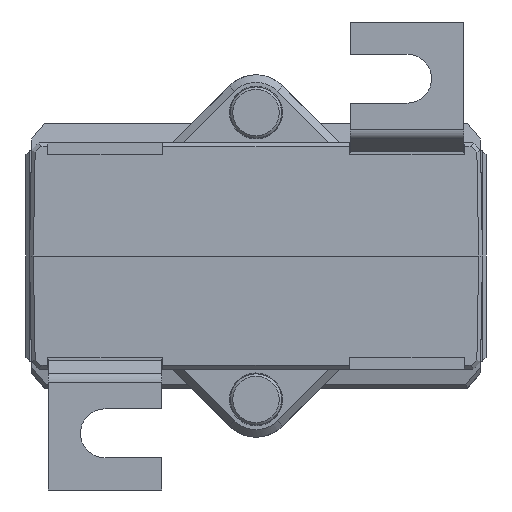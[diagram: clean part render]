
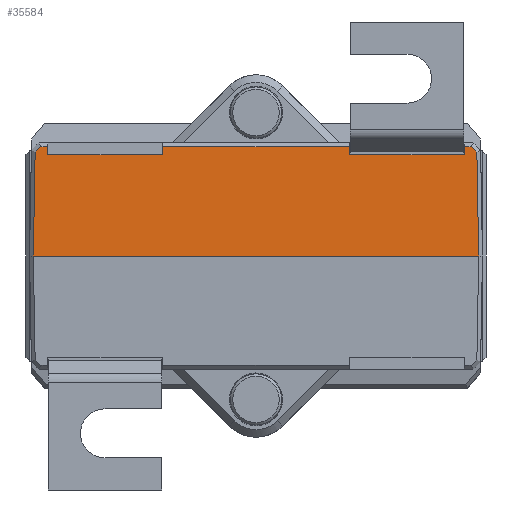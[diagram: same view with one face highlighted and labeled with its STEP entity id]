
A CAD part, front view. The second image highlights one B-rep face of the part: STEP entity #35584.
In plain terms, the highlighted planar face has unit normal (0, -1, 0.018).
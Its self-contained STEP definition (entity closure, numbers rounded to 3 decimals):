
#698=PLANE('',#37760);
#2360=FACE_OUTER_BOUND('',#4327,.T.);
#4327=EDGE_LOOP('',(#24955,#24956,#24957,#24958,#24959,#24960,#24961,#24962,
#24963,#24964,#24965,#24966,#24967,#24968));
#8115=LINE('',#54176,#11868);
#8116=LINE('',#54178,#11869);
#8117=LINE('',#54180,#11870);
#8118=LINE('',#54182,#11871);
#8119=LINE('',#54184,#11872);
#8120=LINE('',#54186,#11873);
#8121=LINE('',#54188,#11874);
#8122=LINE('',#54190,#11875);
#8123=LINE('',#54192,#11876);
#8124=LINE('',#54194,#11877);
#8125=LINE('',#54196,#11878);
#8126=LINE('',#54198,#11879);
#8127=LINE('',#54200,#11880);
#8128=LINE('',#54201,#11881);
#11868=VECTOR('',#41258,1000.);
#11869=VECTOR('',#41259,1000.);
#11870=VECTOR('',#41260,1000.);
#11871=VECTOR('',#41261,1000.);
#11872=VECTOR('',#41262,1000.);
#11873=VECTOR('',#41263,1000.);
#11874=VECTOR('',#41264,1000.);
#11875=VECTOR('',#41265,1000.);
#11876=VECTOR('',#41266,1000.);
#11877=VECTOR('',#41267,1000.);
#11878=VECTOR('',#41268,1000.);
#11879=VECTOR('',#41269,1000.);
#11880=VECTOR('',#41270,1000.);
#11881=VECTOR('',#41271,1000.);
#15822=VERTEX_POINT('',#54174);
#15823=VERTEX_POINT('',#54175);
#15824=VERTEX_POINT('',#54177);
#15825=VERTEX_POINT('',#54179);
#15826=VERTEX_POINT('',#54181);
#15827=VERTEX_POINT('',#54183);
#15828=VERTEX_POINT('',#54185);
#15829=VERTEX_POINT('',#54187);
#15830=VERTEX_POINT('',#54189);
#15831=VERTEX_POINT('',#54191);
#15832=VERTEX_POINT('',#54193);
#15833=VERTEX_POINT('',#54195);
#15834=VERTEX_POINT('',#54197);
#15835=VERTEX_POINT('',#54199);
#19383=EDGE_CURVE('',#15822,#15823,#8115,.T.);
#19384=EDGE_CURVE('',#15823,#15824,#8116,.T.);
#19385=EDGE_CURVE('',#15824,#15825,#8117,.T.);
#19386=EDGE_CURVE('',#15826,#15825,#8118,.T.);
#19387=EDGE_CURVE('',#15826,#15827,#8119,.T.);
#19388=EDGE_CURVE('',#15828,#15827,#8120,.T.);
#19389=EDGE_CURVE('',#15828,#15829,#8121,.T.);
#19390=EDGE_CURVE('',#15830,#15829,#8122,.T.);
#19391=EDGE_CURVE('',#15831,#15830,#8123,.T.);
#19392=EDGE_CURVE('',#15832,#15831,#8124,.T.);
#19393=EDGE_CURVE('',#15832,#15833,#8125,.T.);
#19394=EDGE_CURVE('',#15833,#15834,#8126,.T.);
#19395=EDGE_CURVE('',#15834,#15835,#8127,.T.);
#19396=EDGE_CURVE('',#15822,#15835,#8128,.T.);
#24955=ORIENTED_EDGE('',*,*,#19383,.T.);
#24956=ORIENTED_EDGE('',*,*,#19384,.T.);
#24957=ORIENTED_EDGE('',*,*,#19385,.T.);
#24958=ORIENTED_EDGE('',*,*,#19386,.F.);
#24959=ORIENTED_EDGE('',*,*,#19387,.T.);
#24960=ORIENTED_EDGE('',*,*,#19388,.F.);
#24961=ORIENTED_EDGE('',*,*,#19389,.T.);
#24962=ORIENTED_EDGE('',*,*,#19390,.F.);
#24963=ORIENTED_EDGE('',*,*,#19391,.F.);
#24964=ORIENTED_EDGE('',*,*,#19392,.F.);
#24965=ORIENTED_EDGE('',*,*,#19393,.T.);
#24966=ORIENTED_EDGE('',*,*,#19394,.T.);
#24967=ORIENTED_EDGE('',*,*,#19395,.T.);
#24968=ORIENTED_EDGE('',*,*,#19396,.F.);
#35584=ADVANCED_FACE('',(#2360),#698,.T.);
#37760=AXIS2_PLACEMENT_3D('',#54173,#41256,#41257);
#41256=DIRECTION('center_axis',(0.,-1.,0.017));
#41257=DIRECTION('ref_axis',(0.,-0.017,-1.));
#41258=DIRECTION('',(-0.017,0.017,1.));
#41259=DIRECTION('',(-0.719,0.012,0.695));
#41260=DIRECTION('',(-1.,0.,0.));
#41261=DIRECTION('',(0.009,0.017,1.));
#41262=DIRECTION('',(-1.,0.,0.));
#41263=DIRECTION('',(0.009,-0.017,-1.));
#41264=DIRECTION('',(-1.,0.,0.));
#41265=DIRECTION('',(0.009,0.017,1.));
#41266=DIRECTION('',(1.,0.,0.));
#41267=DIRECTION('',(0.009,-0.017,-1.));
#41268=DIRECTION('',(-1.,0.,0.));
#41269=DIRECTION('',(-0.719,-0.012,-0.695));
#41270=DIRECTION('',(-0.017,-0.017,-1.));
#41271=DIRECTION('',(-1.,0.,0.));
#54173=CARTESIAN_POINT('Origin',(-30.,-33.501,0.));
#54174=CARTESIAN_POINT('',(29.5,-33.501,0.));
#54175=CARTESIAN_POINT('',(29.259,-33.261,13.775));
#54176=CARTESIAN_POINT('',(29.482,-33.483,1.038));
#54177=CARTESIAN_POINT('',(28.509,-33.248,14.5));
#54178=CARTESIAN_POINT('',(28.368,-33.246,14.636));
#54179=CARTESIAN_POINT('',(27.618,-33.248,14.5));
#54180=CARTESIAN_POINT('',(-28.72,-33.248,14.5));
#54181=CARTESIAN_POINT('',(27.608,-33.267,13.4));
#54182=CARTESIAN_POINT('',(27.487,-33.51,-0.502));
#54183=CARTESIAN_POINT('',(12.392,-33.267,13.4));
#54184=CARTESIAN_POINT('',(-30.,-33.267,13.4));
#54185=CARTESIAN_POINT('',(12.382,-33.248,14.5));
#54186=CARTESIAN_POINT('',(12.505,-33.495,0.371));
#54187=CARTESIAN_POINT('',(-12.382,-33.248,14.5));
#54188=CARTESIAN_POINT('',(-28.72,-33.248,14.5));
#54189=CARTESIAN_POINT('',(-12.392,-33.267,13.4));
#54190=CARTESIAN_POINT('',(-12.51,-33.504,-0.153));
#54191=CARTESIAN_POINT('',(-27.608,-33.267,13.4));
#54192=CARTESIAN_POINT('',(-30.,-33.267,13.4));
#54193=CARTESIAN_POINT('',(-27.618,-33.248,14.5));
#54194=CARTESIAN_POINT('',(-27.491,-33.501,0.022));
#54195=CARTESIAN_POINT('',(-28.509,-33.248,14.5));
#54196=CARTESIAN_POINT('',(-28.72,-33.248,14.5));
#54197=CARTESIAN_POINT('',(-29.259,-33.261,13.776));
#54198=CARTESIAN_POINT('',(-29.404,-33.263,13.636));
#54199=CARTESIAN_POINT('',(-29.5,-33.501,0.));
#54200=CARTESIAN_POINT('',(-29.5,-33.501,-0.009));
#54201=CARTESIAN_POINT('',(30.,-33.501,0.));
